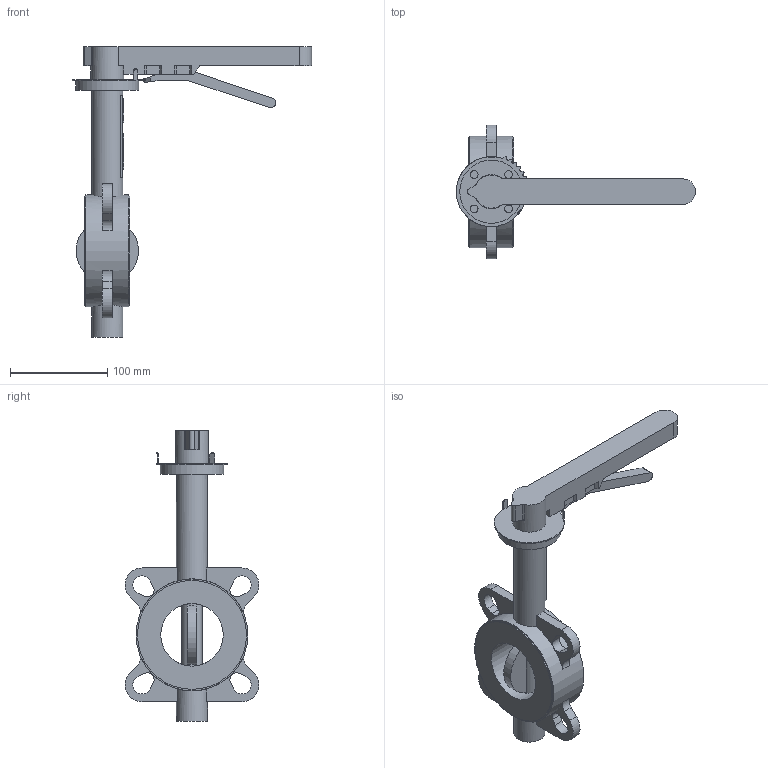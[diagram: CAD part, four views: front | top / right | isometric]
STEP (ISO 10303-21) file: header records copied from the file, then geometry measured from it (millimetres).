
FILE_DESCRIPTION(('STEP AP203'), '1');
FILE_NAME('Çàòâîð 017W.Z(÷óãóí) DN65 PN10_16 ðóêîÿòêà', '', ('UNSPECIFIED'), ('UNSPECIFIED'), 'ASCON STEP Converter 1.6', 'ASCON Math Kernel', '');
FILE_SCHEMA(('CONFIG_CONTROL_DESIGN'));
Length unit declared in the file: millimetre
Bounding box: 245.97 x 137.48 x 299 mm (x, y, z)
Volume: 164924.6 mm3; surface area: 122017.8 mm2
Topology: 1 solids, 2 shells, 725 faces, 2135 edges, 1378 vertices
Faces by surface type: cylinder 480, plane 245
Full cylindrical faces by diameter (mm): 8 x4, 12.6 x1, 21 x1, 32 x2, 34 x1, 35 x1, 64.3 x1, 65 x1, 112 x2, 115 x1
Entity records: 31180 total; most frequent: CARTESIAN_POINT 5117, DIRECTION 4568, ORIENTED_EDGE 4179, EDGE_CURVE 2121, AXIS2_PLACEMENT_3D 1744, VERTEX_POINT 1378, LINE 1080, VECTOR 1080
